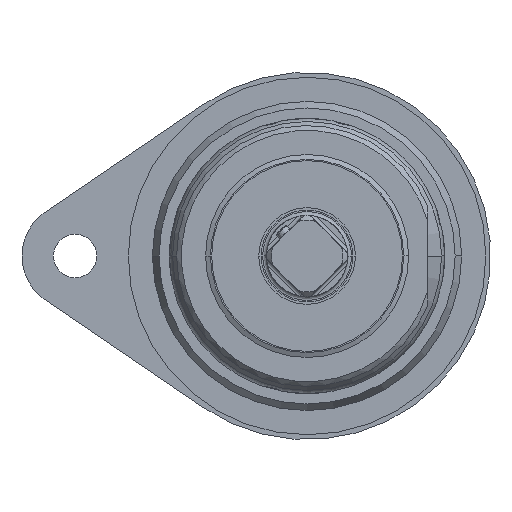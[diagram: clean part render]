
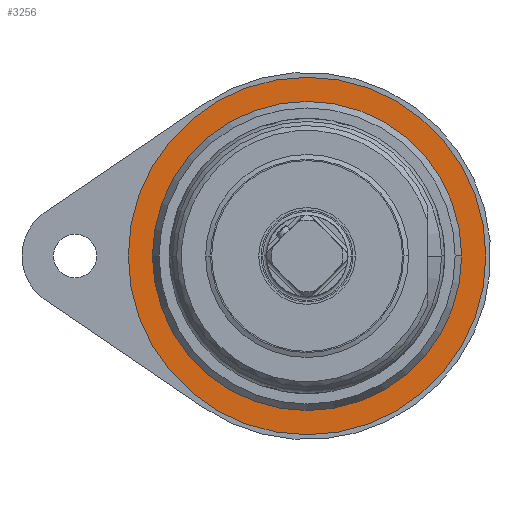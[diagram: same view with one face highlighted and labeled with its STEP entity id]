
A CAD part, left-side view. The second image highlights one B-rep face of the part: STEP entity #3256.
In plain terms, the highlighted planar face has unit normal (-1, 0, 0).
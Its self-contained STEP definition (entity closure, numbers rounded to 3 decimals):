
#676=CARTESIAN_POINT('',(143.,0.,0.));
#677=DIRECTION('',(1.,0.,0.));
#678=DIRECTION('',(0.,0.,-1.));
#679=AXIS2_PLACEMENT_3D('',#676,#677,#678);
#681=CARTESIAN_POINT('',(143.,0.,0.));
#682=DIRECTION('',(1.,0.,0.));
#683=DIRECTION('',(0.,0.,1.));
#684=AXIS2_PLACEMENT_3D('',#681,#682,#683);
#686=CARTESIAN_POINT('',(143.,0.,0.));
#687=DIRECTION('',(1.,0.,0.));
#688=DIRECTION('',(0.,1.,0.));
#689=AXIS2_PLACEMENT_3D('',#686,#687,#688);
#691=CARTESIAN_POINT('',(143.,0.,0.));
#692=DIRECTION('',(1.,0.,0.));
#693=DIRECTION('',(0.,-1.,0.));
#694=AXIS2_PLACEMENT_3D('',#691,#692,#693);
#1595=CARTESIAN_POINT('',(143.,0.,-37.));
#1596=CARTESIAN_POINT('',(143.,0.,37.));
#1597=VERTEX_POINT('',#1595);
#1598=VERTEX_POINT('',#1596);
#1796=CARTESIAN_POINT('',(143.,31.1,0.));
#1797=CARTESIAN_POINT('',(143.,-31.1,0.));
#1798=VERTEX_POINT('',#1796);
#1799=VERTEX_POINT('',#1797);
#3241=CARTESIAN_POINT('',(143.,0.,0.));
#3242=DIRECTION('',(1.,0.,0.));
#3243=DIRECTION('',(0.,0.,-1.));
#3244=AXIS2_PLACEMENT_3D('',#3241,#3242,#3243);
#3245=PLANE('',#3244);
#3246=ORIENTED_EDGE('',*,*,#3207,.T.);
#3247=ORIENTED_EDGE('',*,*,#3228,.T.);
#3248=EDGE_LOOP('',(#3246,#3247));
#3249=FACE_OUTER_BOUND('',#3248,.F.);
#3251=ORIENTED_EDGE('',*,*,#3250,.F.);
#3253=ORIENTED_EDGE('',*,*,#3252,.F.);
#3254=EDGE_LOOP('',(#3251,#3253));
#3255=FACE_BOUND('',#3254,.F.);
#680=CIRCLE('',#679,37.);
#685=CIRCLE('',#684,37.);
#690=CIRCLE('',#689,31.1);
#695=CIRCLE('',#694,31.1);
#3207=EDGE_CURVE('',#1597,#1598,#680,.T.);
#3228=EDGE_CURVE('',#1598,#1597,#685,.T.);
#3250=EDGE_CURVE('',#1798,#1799,#690,.T.);
#3252=EDGE_CURVE('',#1799,#1798,#695,.T.);
#3256=ADVANCED_FACE('',(#3249,#3255),#3245,.F.);
